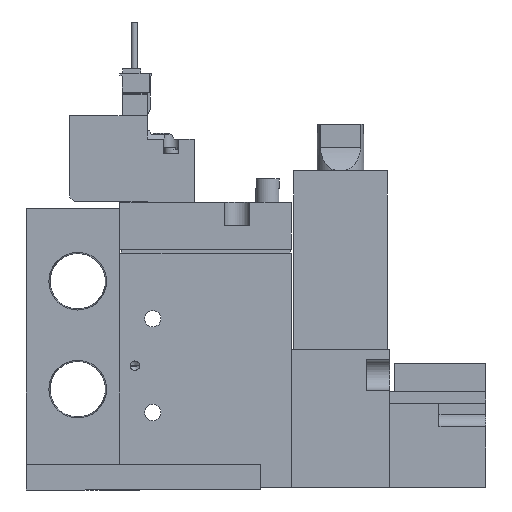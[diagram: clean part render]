
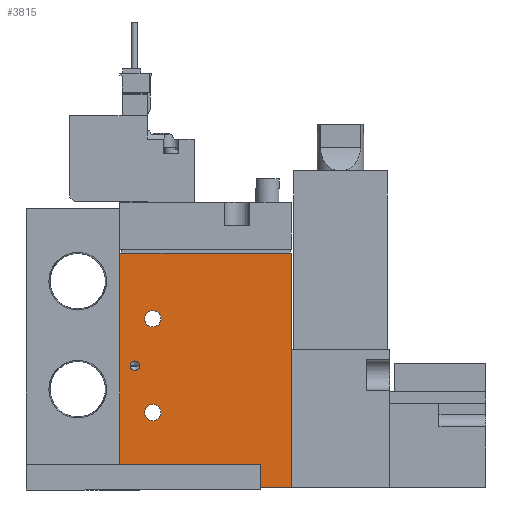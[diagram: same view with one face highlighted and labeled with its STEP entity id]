
A CAD part, left-side view. The second image highlights one B-rep face of the part: STEP entity #3815.
In plain terms, the highlighted planar face has unit normal (-1, 0, 0) as drawn and (1, 0, 0) by its records, which use the part's own axes.
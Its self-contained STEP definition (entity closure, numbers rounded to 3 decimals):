
#3815=ADVANCED_FACE('',(#5649,#5650,#5651,#5652),#5653,.F.);
#5649=FACE_BOUND('',#9626,.T.);
#5650=FACE_BOUND('',#9627,.T.);
#5651=FACE_BOUND('',#9628,.T.);
#5652=FACE_OUTER_BOUND('',#9629,.T.);
#5653=PLANE('',#9630);
#9626=EDGE_LOOP('',(#13932));
#9627=EDGE_LOOP('',(#13933));
#9628=EDGE_LOOP('',(#13934));
#9629=EDGE_LOOP('',(#13935,#13936,#13937,#13938));
#9630=AXIS2_PLACEMENT_3D('',#13939,#13940,#13941);
#13932=ORIENTED_EDGE('',*,*,#27355,.F.);
#13933=ORIENTED_EDGE('',*,*,#27334,.T.);
#13934=ORIENTED_EDGE('',*,*,#27330,.T.);
#13935=ORIENTED_EDGE('',*,*,#27345,.T.);
#13936=ORIENTED_EDGE('',*,*,#27350,.F.);
#13937=ORIENTED_EDGE('',*,*,#27351,.F.);
#13938=ORIENTED_EDGE('',*,*,#27347,.T.);
#13939=CARTESIAN_POINT('',(8.5,-19.444,50.0));
#13940=DIRECTION('',(-1.0,0.0,0.0));
#13941=DIRECTION('',(0.0,0.0,1.0));
#27330=EDGE_CURVE('',#31696,#31696,#31697,.T.);
#27334=EDGE_CURVE('',#31702,#31702,#31703,.T.);
#27345=EDGE_CURVE('',#31724,#31722,#31725,.T.);
#27347=EDGE_CURVE('',#31727,#31724,#31728,.T.);
#27350=EDGE_CURVE('',#31730,#31722,#31732,.T.);
#27351=EDGE_CURVE('',#31727,#31730,#31733,.T.);
#27355=EDGE_CURVE('',#31738,#31738,#31739,.T.);
#31696=VERTEX_POINT('',#39070);
#31697=CIRCLE('',#39071,1.75);
#31702=VERTEX_POINT('',#39076);
#31703=CIRCLE('',#39077,1.75);
#31722=VERTEX_POINT('',#39100);
#31724=VERTEX_POINT('',#39103);
#31725=LINE('',#39104,#39105);
#31727=VERTEX_POINT('',#39108);
#31728=LINE('',#39109,#39110);
#31730=VERTEX_POINT('',#39113);
#31732=LINE('',#39116,#39117);
#31733=LINE('',#39118,#39119);
#31738=VERTEX_POINT('',#39124);
#31739=CIRCLE('',#39125,1.0);
#39070=CARTESIAN_POINT('',(8.5,-10.694,16.0));
#39071=AXIS2_PLACEMENT_3D('',#49891,#49892,#49893);
#39076=CARTESIAN_POINT('',(8.5,-10.694,36.0));
#39077=AXIS2_PLACEMENT_3D('',#49900,#49901,#49902);
#39100=CARTESIAN_POINT('',(8.5,17.056,0.0));
#39103=CARTESIAN_POINT('',(8.5,-19.444,0.0));
#39104=CARTESIAN_POINT('',(8.5,-19.444,0.0));
#39105=VECTOR('',#49923,1.0);
#39108=CARTESIAN_POINT('',(8.5,-19.444,50.0));
#39109=CARTESIAN_POINT('',(8.5,-19.444,50.0));
#39110=VECTOR('',#49925,1.0);
#39113=CARTESIAN_POINT('',(8.5,17.056,50.0));
#39116=CARTESIAN_POINT('',(8.5,17.056,50.0));
#39117=VECTOR('',#49928,1.0);
#39118=CARTESIAN_POINT('',(8.5,-19.444,50.0));
#39119=VECTOR('',#49929,1.0);
#39124=CARTESIAN_POINT('',(8.5,-17.244,26.0));
#39125=AXIS2_PLACEMENT_3D('',#49936,#49937,#49938);
#49891=CARTESIAN_POINT('',(8.5,-12.444,16.0));
#49892=DIRECTION('',(-1.0,0.0,0.0));
#49893=DIRECTION('',(0.0,1.0,0.0));
#49900=CARTESIAN_POINT('',(8.5,-12.444,36.0));
#49901=DIRECTION('',(-1.0,0.0,0.0));
#49902=DIRECTION('',(0.0,1.0,0.0));
#49923=DIRECTION('',(0.0,1.0,0.0));
#49925=DIRECTION('',(0.0,0.0,-1.0));
#49928=DIRECTION('',(0.0,0.0,-1.0));
#49929=DIRECTION('',(0.0,1.0,0.0));
#49936=CARTESIAN_POINT('',(8.5,-16.244,26.0));
#49937=DIRECTION('',(1.0,0.,0.0));
#49938=DIRECTION('',(0.,-1.0,0.0));
